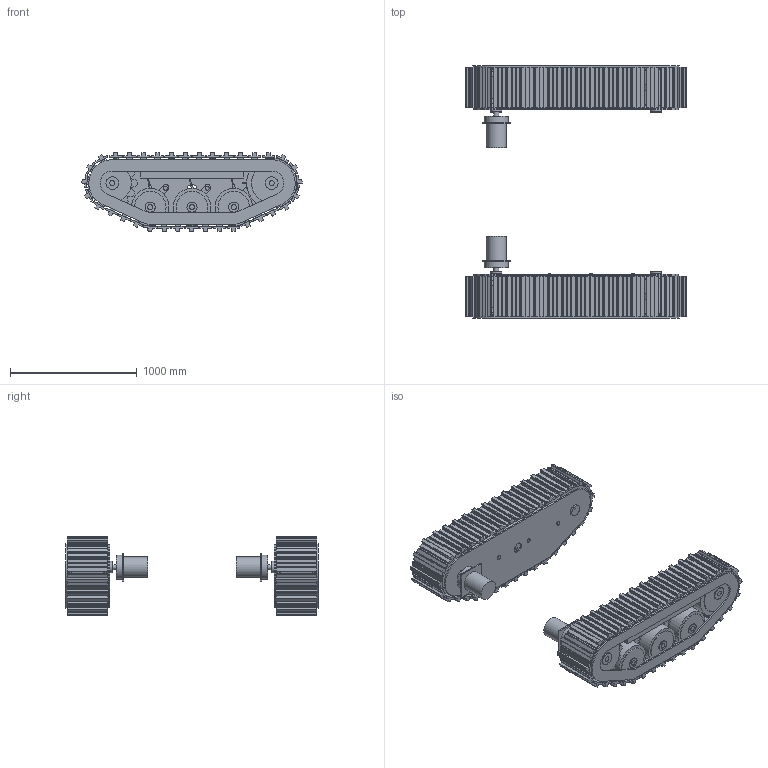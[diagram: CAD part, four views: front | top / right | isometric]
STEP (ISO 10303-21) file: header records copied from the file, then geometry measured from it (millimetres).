
FILE_DESCRIPTION(('Open CASCADE Model'),'2;1');
FILE_NAME('Open CASCADE Shape Model','2026-11-24T20:12:57',('Author'),( 'Open CASCADE'),'Open CASCADE STEP processor 7.9','Open CASCADE 7.9' ,'Unknown');
FILE_SCHEMA(('AUTOMOTIVE_DESIGN { 1 0 10303 214 1 1 1 1 }'));
Length unit declared in the file: centimetre
Products named in the file (118): AKORA_C05_TRACK_DETAIL; 02_TRACK_SYSTEM; LEFT_TRACK; LEFT_TRACK_BEARINGS; FLANGED_BEARING_1_L; FLANGED_BEARING_2_L; WHEEL_BEARING_1_L; WHEEL_BEARING_2_L; WHEEL_BEARING_3_L; WHEEL_BEARING_4_L; WHEEL_BEARING_5_L; LEFT_TRACK_DRIVE_SPROCKETS; DRIVE_SPROCKET_L; DRIVE_SPROCKET_HUB_CAP_L; LEFT_TRACK_IDLER_WHEELS; FRONT_IDLER_WHEEL_L; FRONT_IDLER_HUB_CAP_L; SUPPORT_ROLLER_1_L; SUPPORT_ROLLER_2_L; LEFT_TRACK_ROAD_WHEELS; ROAD_WHEEL_1_L; ROAD_WHEEL_HUB_CAP_1_L; ROAD_WHEEL_2_L; ROAD_WHEEL_HUB_CAP_2_L; ROAD_WHEEL_3_L; ROAD_WHEEL_HUB_CAP_3_L; LEFT_TRACK_TRACK_AXLES; ROAD_WHEEL_ARM_PIVOT_1_L; ROAD_WHEEL_ARM_PIVOT_2_L; ROAD_WHEEL_ARM_PIVOT_3_L; TRACK_AXLE_1_L; TRACK_AXLE_2_L; TRACK_AXLE_3_L; TRACK_AXLE_4_L; TRACK_AXLE_5_L; LEFT_TRACK_TRACK_FRAME; TRACK_FRAME_OUTER_RING_L; TRACK_FRAME_INNER_PLATE_L; TRACK_FRAME_TOP_BEAM_L; TRACK_SPACER_500_520_L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
Assembly tree (185 placements, depth 5):
  AKORA_C05_TRACK_DETAIL
    02_TRACK_SYSTEM
      LEFT_TRACK
        LEFT_TRACK_BEARINGS
          FLANGED_BEARING_1_L
          FLANGED_BEARING_2_L
          WHEEL_BEARING_1_L
          WHEEL_BEARING_2_L
          WHEEL_BEARING_3_L
          WHEEL_BEARING_4_L
          WHEEL_BEARING_5_L
        LEFT_TRACK_DRIVE_SPROCKETS
          DRIVE_SPROCKET_L
          DRIVE_SPROCKET_HUB_CAP_L
        LEFT_TRACK_IDLER_WHEELS
          FRONT_IDLER_WHEEL_L
          FRONT_IDLER_HUB_CAP_L
          SUPPORT_ROLLER_1_L
          SUPPORT_ROLLER_2_L
        LEFT_TRACK_ROAD_WHEELS
          ROAD_WHEEL_1_L
          ROAD_WHEEL_HUB_CAP_1_L
          ROAD_WHEEL_2_L
          ROAD_WHEEL_HUB_CAP_2_L
          ROAD_WHEEL_3_L
          ROAD_WHEEL_HUB_CAP_3_L
        LEFT_TRACK_TRACK_AXLES
          ROAD_WHEEL_ARM_PIVOT_1_L
          ROAD_WHEEL_ARM_PIVOT_2_L
          ROAD_WHEEL_ARM_PIVOT_3_L
          TRACK_AXLE_1_L
          TRACK_AXLE_2_L
          TRACK_AXLE_3_L
          TRACK_AXLE_4_L
          TRACK_AXLE_5_L
        LEFT_TRACK_TRACK_FRAME
          TRACK_FRAME_OUTER_RING_L
          TRACK_FRAME_INNER_PLATE_L
          TRACK_FRAME_TOP_BEAM_L
          TRACK_SPACER_500_520_L
          TRACK_SPACER_1200_520_L
          TRACK_SPACER_685_100_L
          TRACK_SPACER_1015_100_L
          IDLER_TENSIONER_BLOCK_L
          IDLER_TENSION_SCREW_L
          ROAD_WHEEL_SWING_ARM_1_L
          DAMPER_BODY_1_L
          DAMPER_ROD_1_L
          ROAD_WHEEL_SWING_ARM_2_L
          DAMPER_BODY_2_L
          DAMPER_ROD_2_L
          ROAD_WHEEL_SWING_ARM_3_L
          DAMPER_BODY_3_L
          DAMPER_ROD_3_L
        LEFT_TRACK_TRACK_LINKS
          TRACK_LINK_L_01  x35
        LEFT_TRACK_TRACK_MOTORS
          TRACK_MOTOR_L
          TRACK_GEARBOX_L
          TRACK_MOTOR_FLANGE_L
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Bounding box: 1739.93 x 1994 x 620.76 mm (x, y, z)
Volume: 341706715.7 mm3; surface area: 21570850 mm2
Topology: 166 solids, 166 shells, 3072 faces, 7818 edges, 5212 vertices
Faces by surface type: plane 2024, cylinder 1048
Full cylindrical faces by diameter (mm): 8 x6, 14 x4, 16 x6, 20 x4, 28 x8, 32 x18, 40 x68, 72 x20, 80 x6, 90 x12, 100 x4, 160 x2, 190 x2, 200 x6, 250 x6, 280 x2, 296 x12, 300 x2, 310 x2, 320 x2, 396 x4
Entity records: 77580 total; most frequent: CARTESIAN_POINT 13870, DIRECTION 11785, LINE 7838, VECTOR 7838, ORIENTED_EDGE 5844, PCURVE 5844, DEFINITIONAL_REPRESENTATION 5844, EDGE_CURVE 2922
